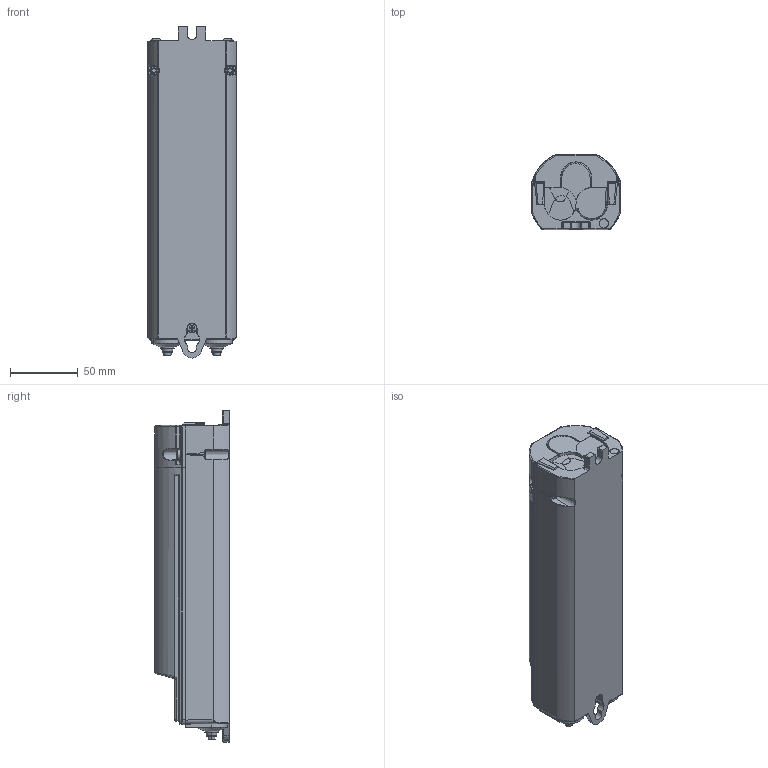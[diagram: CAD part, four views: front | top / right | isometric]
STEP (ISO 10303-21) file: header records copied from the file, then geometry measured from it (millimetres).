
FILE_DESCRIPTION (( 'STEP AP203' ), '1' );
FILE_NAME ('3D - HSW1920 Außenkontur.STEP', '2019-07-17T11:12:56', ( '' ), ( '' ), 'SwSTEP 2.0', 'SolidWorks 2013', '' );
FILE_SCHEMA (( 'CONFIG_CONTROL_DESIGN' ));
Length unit declared in the file: millimetre
Products named in the file (1): 3D - HSW1920 Außenkontur
Bounding box: 65.5 x 55 x 245 mm (x, y, z)
Surface area: 62430.3 mm2 (no closed solid volume)
Topology: 0 solids, 14 shells, 508 faces, 1550 edges, 1022 vertices
Faces by surface type: plane 184, cylinder 150, bspline 84, cone 44, torus 36, sphere 10
Entity records: 19776 total; most frequent: CARTESIAN_POINT 6945, ORIENTED_EDGE 2644, DIRECTION 2529, EDGE_CURVE 1530, VERTEX_POINT 1022, AXIS2_PLACEMENT_3D 887, VECTOR 755, LINE 755
